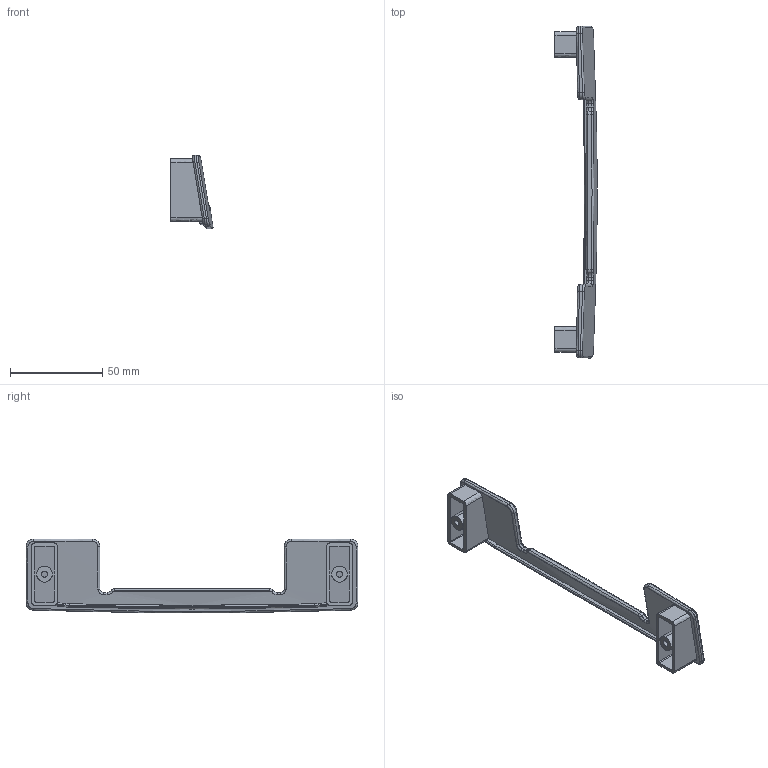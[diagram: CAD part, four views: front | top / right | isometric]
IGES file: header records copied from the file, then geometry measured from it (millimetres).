
Start section: C
Global section: file name: 8275-180 Lip22.igs; native system: By Siemens PLM Incorporated; preprocessor: XPlus GENERIC/IGES 16.0.42; author: Author; organization: Title; date: 20220504.152007; units: millimetre
Bounding box: 22.85 x 180 x 39.86 mm (x, y, z)
Surface area: 16943.2 mm2 (no closed solid volume)
Topology: 0 solids, 0 shells, 156 faces, 839 edges, 838 vertices
Faces by surface type: bspline 156
